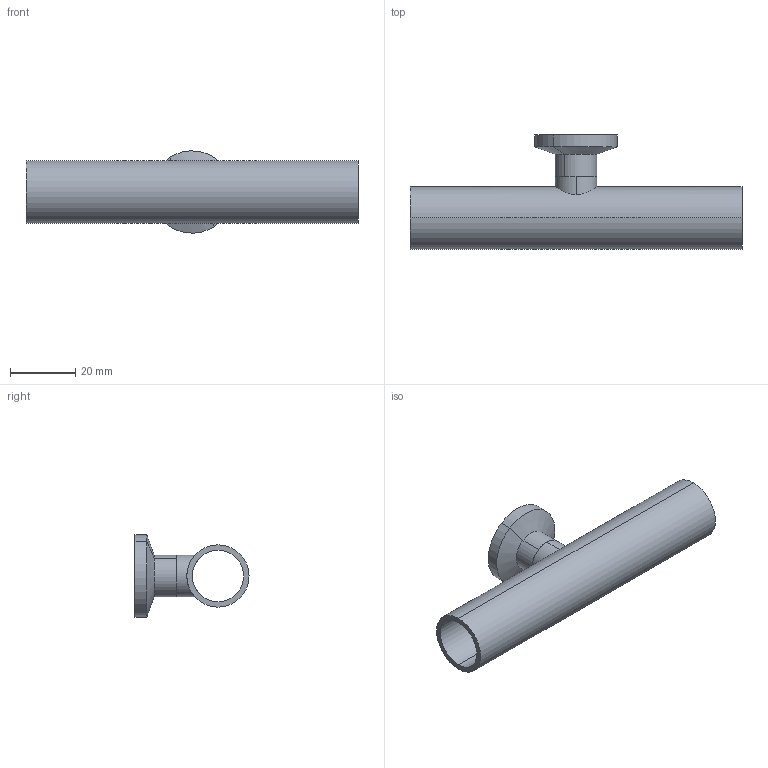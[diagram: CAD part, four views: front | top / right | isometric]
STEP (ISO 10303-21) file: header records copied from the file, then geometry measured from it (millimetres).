
FILE_DESCRIPTION (( 'STEP AP214' ), '1' );
FILE_NAME ('E7RWWCS.75X.5.STEP', '2024-03-20T17:58:16', ( '' ), ( '' ), 'SwSTEP 2.0', 'SolidWorks 2021', '' );
FILE_SCHEMA (( 'AUTOMOTIVE_DESIGN' ));
Length unit declared in the file: inch
Products named in the file (3): EG2CS.50; E7RWWCS.75X.5; E7RWWWS.75X.5
Assembly tree (2 placements, depth 2):
  E7RWWCS.75X.5
    E7RWWWS.75X.5
    EG2CS.50
Bounding box: 101.6 x 34.92 x 25.16 mm (x, y, z)
Volume: 11345.8 mm3; surface area: 13411.7 mm2
Topology: 2 solids, 2 shells, 28 faces, 58 edges, 36 vertices
Faces by surface type: cylinder 16, plane 6, cone 4, torus 2
Entity records: 1036 total; most frequent: CARTESIAN_POINT 283, DIRECTION 154, ORIENTED_EDGE 116, AXIS2_PLACEMENT_3D 67, EDGE_CURVE 58, VERTEX_POINT 36, EDGE_LOOP 36, CIRCLE 34
